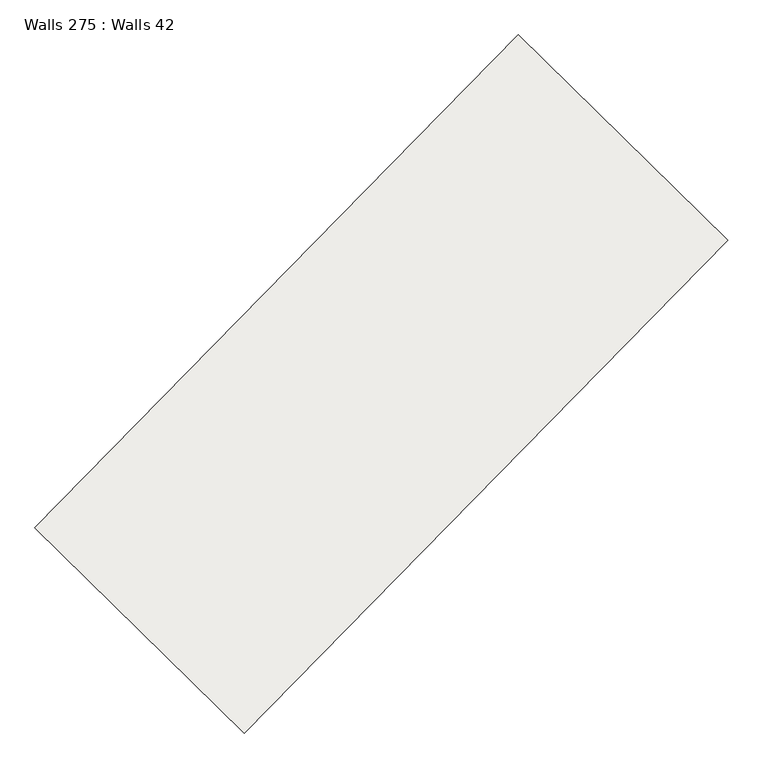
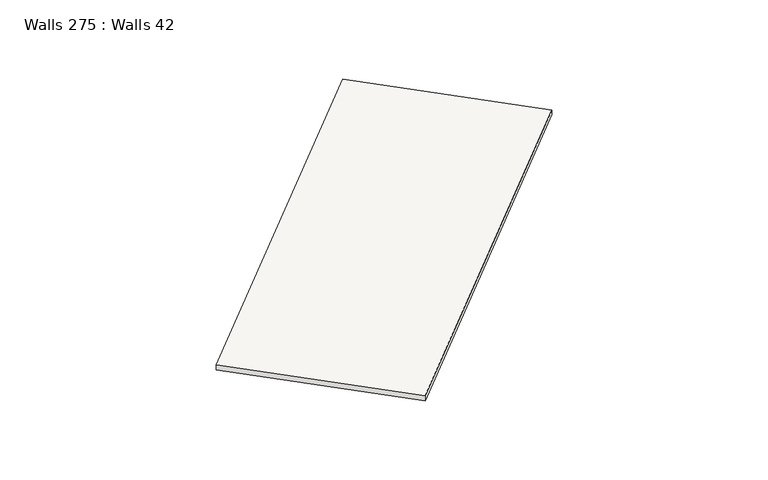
"""IFC4 building model written with IfcOpenShell, lengths in millimetres: slab geometry, Walls 275 : Walls 42."""

from ifc_helpers import new_model, si_unit, frame, origin, place, context, project, spatial, polyline, outline, extrude, source, transform, mapped, element, save


def walls_275_walls_42_08be1e33(model_context):
    return source(origin(), model_context, "Body", "SweptSolid", [
        extrude(outline(polyline([(-50.0, 0.0), (50.0, 0.0), (-40.0, -8700.0000009), (-140.0, -8700.0000009), (-50.0, 0.0)])), frame((-127915.9502075, -289693.7466474, 636190.0), z_axis=(-0.7137361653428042, 0.7004146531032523, 0.0), x_axis=(0.0, 0.0, 1.0)), (0.0, 0.0, 1.0), 3699.999995),
    ])


if __name__ == "__main__":
    model = new_model("IFC4")
    model_context = context("Model", 3, world=origin())
    ifc_project = project(units=[si_unit("LENGTHUNIT", "METRE", prefix="MILLI")], contexts=[model_context])
    site = spatial("IfcSite", under=ifc_project)
    building = spatial("IfcBuilding", under=site)
    placement = place(None, origin())
    walls_275_walls_42_shape = walls_275_walls_42_08be1e33(model_context)
    element("IfcSlab", 1, ObjectType="Walls 275 : Walls 42", at=placement, inside=building, context=model_context, shape_type="MappedRepresentation", body=[
        mapped(walls_275_walls_42_shape, transform((0.0, 0.0, 0.0), x_axis=(1.0, 0.0, 0.0), y_axis=(0.0, 1.0, 0.0), z_axis=(0.0, 0.0, 1.0))),
    ])
    save(model, "model.ifc")
